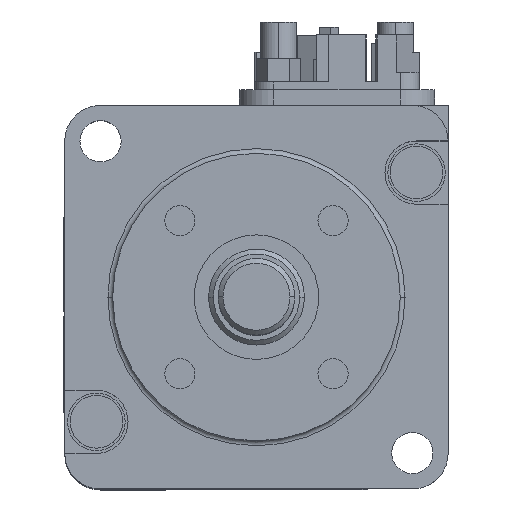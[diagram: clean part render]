
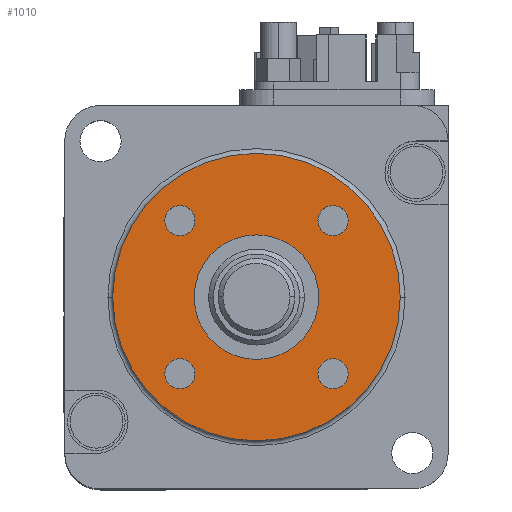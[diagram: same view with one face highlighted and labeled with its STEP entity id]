
A CAD part, top view. The second image highlights one B-rep face of the part: STEP entity #1010.
In plain terms, the highlighted planar face has unit normal (0, 0, 1).
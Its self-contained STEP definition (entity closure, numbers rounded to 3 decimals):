
#18 = DIRECTION ( 'NONE',  ( 0., 0., 1. ) ) ;
#108 = CARTESIAN_POINT ( 'NONE',  ( 6.5, 0., 2.5 ) ) ;
#353 = EDGE_LOOP ( 'NONE', ( #7211, #10640 ) ) ;
#571 = VERTEX_POINT ( 'NONE', #3255 ) ;
#648 = DIRECTION ( 'NONE',  ( 1., 0., 0. ) ) ;
#1001 = CIRCLE ( 'NONE', #5301, 15. ) ;
#1010 = ADVANCED_FACE ( 'NONE', ( #9032, #10731, #2522, #8001, #4995, #7746 ), #8805, .T. ) ;
#1026 = DIRECTION ( 'NONE',  ( 0., 0., 1. ) ) ;
#1265 = DIRECTION ( 'NONE',  ( 1., 0., 0. ) ) ;
#1469 = AXIS2_PLACEMENT_3D ( 'NONE', #6184, #7744, #2742 ) ;
#1482 = DIRECTION ( 'NONE',  ( 0., 0., 1. ) ) ;
#1491 = CARTESIAN_POINT ( 'NONE',  ( -7.99, 7.99, 2.5 ) ) ;
#1495 = EDGE_LOOP ( 'NONE', ( #7068, #8193 ) ) ;
#1634 = DIRECTION ( 'NONE',  ( 1., 0., 0. ) ) ;
#1650 = EDGE_CURVE ( 'NONE', #6283, #571, #1730, .T. ) ;
#1730 = CIRCLE ( 'NONE', #9816, 15. ) ;
#1788 = EDGE_CURVE ( 'NONE', #3478, #8223, #4694, .T. ) ;
#1799 = CARTESIAN_POINT ( 'NONE',  ( -7.99, 7.99, 2.5 ) ) ;
#1904 = DIRECTION ( 'NONE',  ( 0., 0., 1. ) ) ;
#1936 = AXIS2_PLACEMENT_3D ( 'NONE', #9170, #18, #5716 ) ;
#2009 = EDGE_LOOP ( 'NONE', ( #7926, #7946 ) ) ;
#2418 = EDGE_CURVE ( 'NONE', #2724, #5343, #4172, .T. ) ;
#2517 = AXIS2_PLACEMENT_3D ( 'NONE', #1799, #1904, #3513 ) ;
#2522 = FACE_BOUND ( 'NONE', #6236, .T. ) ;
#2599 = DIRECTION ( 'NONE',  ( 1., 0., 0. ) ) ;
#2724 = VERTEX_POINT ( 'NONE', #5368 ) ;
#2742 = DIRECTION ( 'NONE',  ( 1., 0., 0. ) ) ;
#2767 = AXIS2_PLACEMENT_3D ( 'NONE', #8112, #7181, #1634 ) ;
#2789 = DIRECTION ( 'NONE',  ( 1., 0., 0. ) ) ;
#2848 = CIRCLE ( 'NONE', #3828, 6.5 ) ;
#2939 = DIRECTION ( 'NONE',  ( 0., 0., 1. ) ) ;
#2963 = EDGE_CURVE ( 'NONE', #9146, #5861, #7828, .T. ) ;
#3057 = VERTEX_POINT ( 'NONE', #7603 ) ;
#3066 = CIRCLE ( 'NONE', #7014, 1.574 ) ;
#3079 = CARTESIAN_POINT ( 'NONE',  ( -6.416, 7.99, 2.5 ) ) ;
#3189 = EDGE_CURVE ( 'NONE', #5861, #9146, #6133, .T. ) ;
#3255 = CARTESIAN_POINT ( 'NONE',  ( 15., 0., 2.5 ) ) ;
#3470 = CARTESIAN_POINT ( 'NONE',  ( -9.564, -7.99, 2.5 ) ) ;
#3478 = VERTEX_POINT ( 'NONE', #7514 ) ;
#3509 = DIRECTION ( 'NONE',  ( 0., 0., 1. ) ) ;
#3513 = DIRECTION ( 'NONE',  ( 1., 0., 0. ) ) ;
#3828 = AXIS2_PLACEMENT_3D ( 'NONE', #5404, #6269, #1265 ) ;
#4066 = EDGE_CURVE ( 'NONE', #8223, #3478, #2848, .T. ) ;
#4106 = VERTEX_POINT ( 'NONE', #3079 ) ;
#4127 = CARTESIAN_POINT ( 'NONE',  ( 9.564, 7.99, 2.5 ) ) ;
#4172 = CIRCLE ( 'NONE', #1936, 1.574 ) ;
#4268 = DIRECTION ( 'NONE',  ( 0., 0., 1. ) ) ;
#4377 = CARTESIAN_POINT ( 'NONE',  ( 0., 0., 2.5 ) ) ;
#4694 = CIRCLE ( 'NONE', #7536, 6.5 ) ;
#4723 = ORIENTED_EDGE ( 'NONE', *, *, #8083, .T. ) ;
#4886 = ORIENTED_EDGE ( 'NONE', *, *, #6466, .F. ) ;
#4995 = FACE_BOUND ( 'NONE', #2009, .T. ) ;
#5301 = AXIS2_PLACEMENT_3D ( 'NONE', #9909, #1482, #8936 ) ;
#5343 = VERTEX_POINT ( 'NONE', #4127 ) ;
#5368 = CARTESIAN_POINT ( 'NONE',  ( 6.416, 7.99, 2.5 ) ) ;
#5404 = CARTESIAN_POINT ( 'NONE',  ( 0., 0., 2.5 ) ) ;
#5716 = DIRECTION ( 'NONE',  ( 1., 0., 0. ) ) ;
#5766 = EDGE_CURVE ( 'NONE', #3057, #8737, #9186, .T. ) ;
#5769 = DIRECTION ( 'NONE',  ( 1., 0., 0. ) ) ;
#5861 = VERTEX_POINT ( 'NONE', #3470 ) ;
#5908 = EDGE_CURVE ( 'NONE', #5343, #2724, #3066, .T. ) ;
#6007 = CIRCLE ( 'NONE', #10693, 1.574 ) ;
#6133 = CIRCLE ( 'NONE', #1469, 1.574 ) ;
#6184 = CARTESIAN_POINT ( 'NONE',  ( -7.99, -7.99, 2.5 ) ) ;
#6236 = EDGE_LOOP ( 'NONE', ( #4886, #9708 ) ) ;
#6269 = DIRECTION ( 'NONE',  ( 0., 0., 1. ) ) ;
#6283 = VERTEX_POINT ( 'NONE', #8920 ) ;
#6466 = EDGE_CURVE ( 'NONE', #4106, #7938, #6007, .T. ) ;
#6639 = CARTESIAN_POINT ( 'NONE',  ( -6.416, -7.99, 2.5 ) ) ;
#6914 = AXIS2_PLACEMENT_3D ( 'NONE', #10158, #1026, #7707 ) ;
#7014 = AXIS2_PLACEMENT_3D ( 'NONE', #10050, #3509, #9260 ) ;
#7068 = ORIENTED_EDGE ( 'NONE', *, *, #8210, .F. ) ;
#7181 = DIRECTION ( 'NONE',  ( 0., 0., 1. ) ) ;
#7205 = AXIS2_PLACEMENT_3D ( 'NONE', #9263, #4268, #2599 ) ;
#7211 = ORIENTED_EDGE ( 'NONE', *, *, #5908, .F. ) ;
#7396 = DIRECTION ( 'NONE',  ( 0., 0., 1. ) ) ;
#7454 = DIRECTION ( 'NONE',  ( 0., 0., 1. ) ) ;
#7514 = CARTESIAN_POINT ( 'NONE',  ( -6.5, 0., 2.5 ) ) ;
#7536 = AXIS2_PLACEMENT_3D ( 'NONE', #9944, #7454, #5769 ) ;
#7603 = CARTESIAN_POINT ( 'NONE',  ( 6.416, -7.99, 2.5 ) ) ;
#7707 = DIRECTION ( 'NONE',  ( 1., 0., 0. ) ) ;
#7744 = DIRECTION ( 'NONE',  ( 0., 0., 1. ) ) ;
#7746 = FACE_OUTER_BOUND ( 'NONE', #9573, .T. ) ;
#7828 = CIRCLE ( 'NONE', #6914, 1.574 ) ;
#7926 = ORIENTED_EDGE ( 'NONE', *, *, #4066, .F. ) ;
#7938 = VERTEX_POINT ( 'NONE', #9594 ) ;
#7946 = ORIENTED_EDGE ( 'NONE', *, *, #1788, .F. ) ;
#8001 = FACE_BOUND ( 'NONE', #353, .T. ) ;
#8083 = EDGE_CURVE ( 'NONE', #571, #6283, #1001, .T. ) ;
#8089 = ORIENTED_EDGE ( 'NONE', *, *, #1650, .T. ) ;
#8112 = CARTESIAN_POINT ( 'NONE',  ( 0., 0., 2.5 ) ) ;
#8193 = ORIENTED_EDGE ( 'NONE', *, *, #5766, .F. ) ;
#8210 = EDGE_CURVE ( 'NONE', #8737, #3057, #9064, .T. ) ;
#8223 = VERTEX_POINT ( 'NONE', #108 ) ;
#8364 = EDGE_CURVE ( 'NONE', #7938, #4106, #10371, .T. ) ;
#8609 = ORIENTED_EDGE ( 'NONE', *, *, #2963, .F. ) ;
#8737 = VERTEX_POINT ( 'NONE', #10641 ) ;
#8763 = DIRECTION ( 'NONE',  ( 1., 0., 0. ) ) ;
#8805 = PLANE ( 'NONE',  #2767 ) ;
#8920 = CARTESIAN_POINT ( 'NONE',  ( -15., 0., 2.5 ) ) ;
#8936 = DIRECTION ( 'NONE',  ( 1., 0., 0. ) ) ;
#9032 = FACE_BOUND ( 'NONE', #1495, .T. ) ;
#9064 = CIRCLE ( 'NONE', #7205, 1.574 ) ;
#9146 = VERTEX_POINT ( 'NONE', #6639 ) ;
#9170 = CARTESIAN_POINT ( 'NONE',  ( 7.99, 7.99, 2.5 ) ) ;
#9186 = CIRCLE ( 'NONE', #10551, 1.574 ) ;
#9260 = DIRECTION ( 'NONE',  ( 1., 0., 0. ) ) ;
#9263 = CARTESIAN_POINT ( 'NONE',  ( 7.99, -7.99, 2.5 ) ) ;
#9573 = EDGE_LOOP ( 'NONE', ( #8089, #4723 ) ) ;
#9594 = CARTESIAN_POINT ( 'NONE',  ( -9.564, 7.99, 2.5 ) ) ;
#9708 = ORIENTED_EDGE ( 'NONE', *, *, #8364, .F. ) ;
#9727 = CARTESIAN_POINT ( 'NONE',  ( 7.99, -7.99, 2.5 ) ) ;
#9816 = AXIS2_PLACEMENT_3D ( 'NONE', #4377, #2939, #8763 ) ;
#9909 = CARTESIAN_POINT ( 'NONE',  ( 0., 0., 2.5 ) ) ;
#9944 = CARTESIAN_POINT ( 'NONE',  ( 0., 0., 2.5 ) ) ;
#10050 = CARTESIAN_POINT ( 'NONE',  ( 7.99, 7.99, 2.5 ) ) ;
#10158 = CARTESIAN_POINT ( 'NONE',  ( -7.99, -7.99, 2.5 ) ) ;
#10371 = CIRCLE ( 'NONE', #2517, 1.574 ) ;
#10376 = EDGE_LOOP ( 'NONE', ( #8609, #10659 ) ) ;
#10536 = DIRECTION ( 'NONE',  ( 0., 0., 1. ) ) ;
#10551 = AXIS2_PLACEMENT_3D ( 'NONE', #9727, #10536, #648 ) ;
#10640 = ORIENTED_EDGE ( 'NONE', *, *, #2418, .F. ) ;
#10641 = CARTESIAN_POINT ( 'NONE',  ( 9.564, -7.99, 2.5 ) ) ;
#10659 = ORIENTED_EDGE ( 'NONE', *, *, #3189, .F. ) ;
#10693 = AXIS2_PLACEMENT_3D ( 'NONE', #1491, #7396, #2789 ) ;
#10731 = FACE_BOUND ( 'NONE', #10376, .T. ) ;
